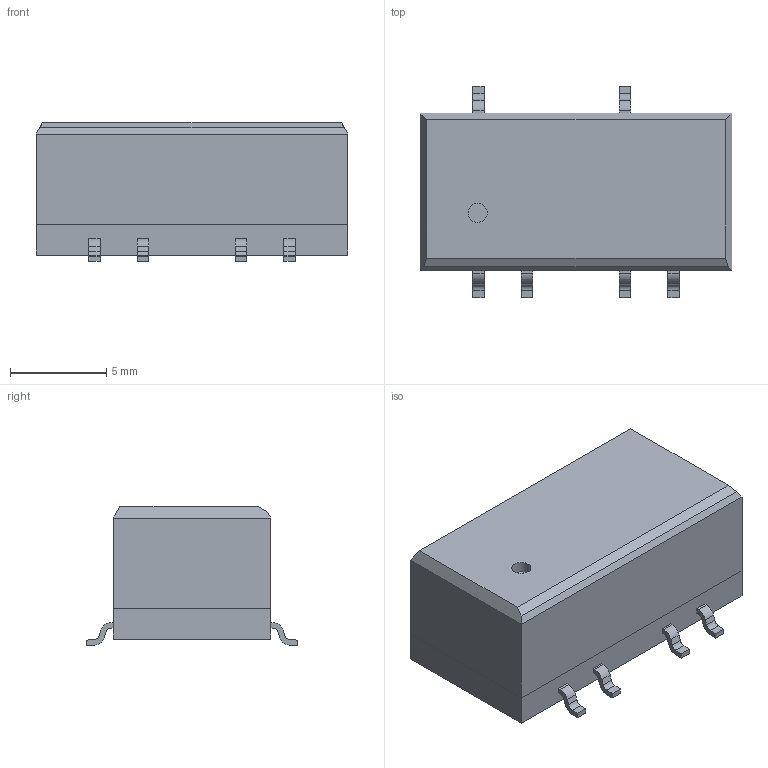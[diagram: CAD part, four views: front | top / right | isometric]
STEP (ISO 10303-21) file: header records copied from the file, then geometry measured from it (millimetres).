
FILE_DESCRIPTION(/* description */ (''),/* implementation_level */ '2;1');
FILE_NAME(/* name */ 'C:\Users\Calliope\Desktop\MS+水洗孔3D\MSLU100-D-W 3D(TES 1 Dual).stp',/* time_stamp */ '2016-03-17T11:06:46+08:00',/* author */ ('Calliope'),/* organization */ (''),/* preprocessor_version */ 'ST-DEVELOPER v15.6',/* originating_system */ 'Autodesk Inventor 2015',/* authorisation */ '');
FILE_SCHEMA (('AUTOMOTIVE_DESIGN { 1 0 10303 214 3 1 1 }'));
Length unit declared in the file: millimetre
Products named in the file (3): MSLU100D Header; MSLU100D-W Cover; MSLU100D-W
Assembly tree (2 placements, depth 2):
  MSLU100D-W
    MSLU100D Header
    MSLU100D-W Cover
Bounding box: 16.24 x 11 x 7.23 mm (x, y, z)
Volume: 633.9 mm3; surface area: 1192.6 mm2
Topology: 2 solids, 2 shells, 157 faces, 397 edges, 262 vertices
Faces by surface type: plane 131, cylinder 26
Full cylindrical faces by diameter (mm): 1 x2
Entity records: 4718 total; most frequent: CARTESIAN_POINT 819, ORIENTED_EDGE 790, DIRECTION 771, EDGE_CURVE 395, LINE 343, VECTOR 343, VERTEX_POINT 262, AXIS2_PLACEMENT_3D 214
